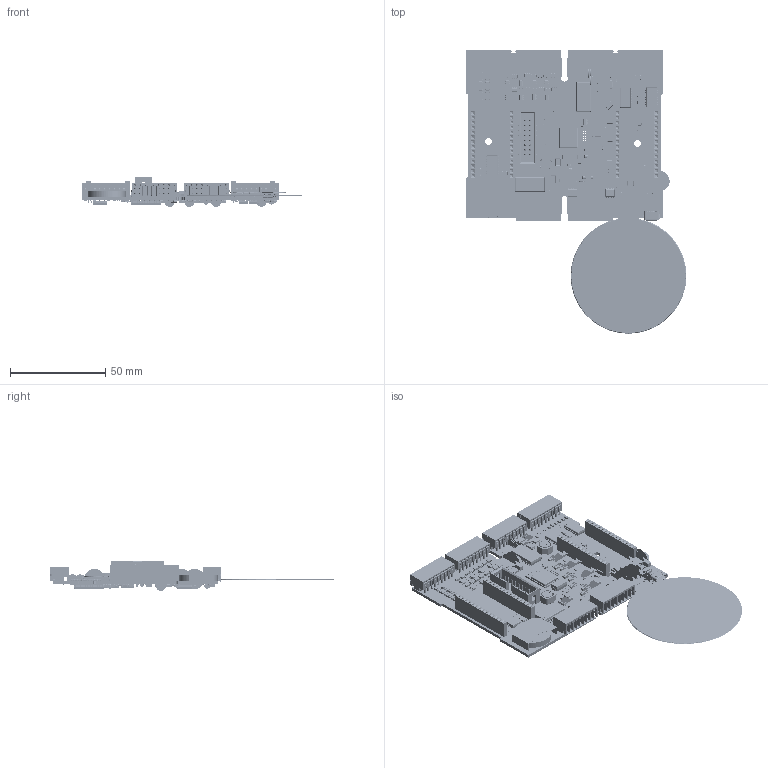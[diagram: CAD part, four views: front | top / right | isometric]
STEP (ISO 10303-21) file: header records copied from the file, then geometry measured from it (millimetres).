
FILE_DESCRIPTION(('Open CASCADE Model'),'2;1');
FILE_NAME('Open CASCADE Shape Model','2022-11-30T14:10:46',('Author'),( 'Open CASCADE'),'Open CASCADE STEP processor 7.5','Open CASCADE 7.5' ,'Unknown');
FILE_SCHEMA(('AUTOMOTIVE_DESIGN { 1 0 10303 214 1 1 1 1 }'));
Products named in the file (1): PCB
Bounding box: 115.73 x 148.62 x 15.59 mm (x, y, z)
Volume: 18600.4 mm3; surface area: 64413.6 mm2
Topology: 516 solids, 19694 shells, 41127 faces, 150303 edges, 127612 vertices
Faces by surface type: plane 26238, cylinder 9970, bspline 2998, sphere 1684, extrusion 140, cone 56, torus 41
Full cylindrical faces by diameter (mm): 0.07 x1, 0.2 x1, 0.388 x1, 0.4 x2, 0.5 x4, 0.6 x10, 0.7 x4, 0.8 x1, 0.85 x62, 0.95 x4, 1.1 x108, 1.2 x1, 2.75 x1, 3.3 x1, 3.5 x2, 5.5 x2, 5.75 x1, 6.5 x1
Entity records: 1933546 total; most frequent: CARTESIAN_POINT 567715, DIRECTION 235338, ORIENTED_EDGE 192525, EDGE_CURVE 148313, VERTEX_POINT 127423, VECTOR 111812, LINE 111672, AXIS2_PLACEMENT_3D 61763
